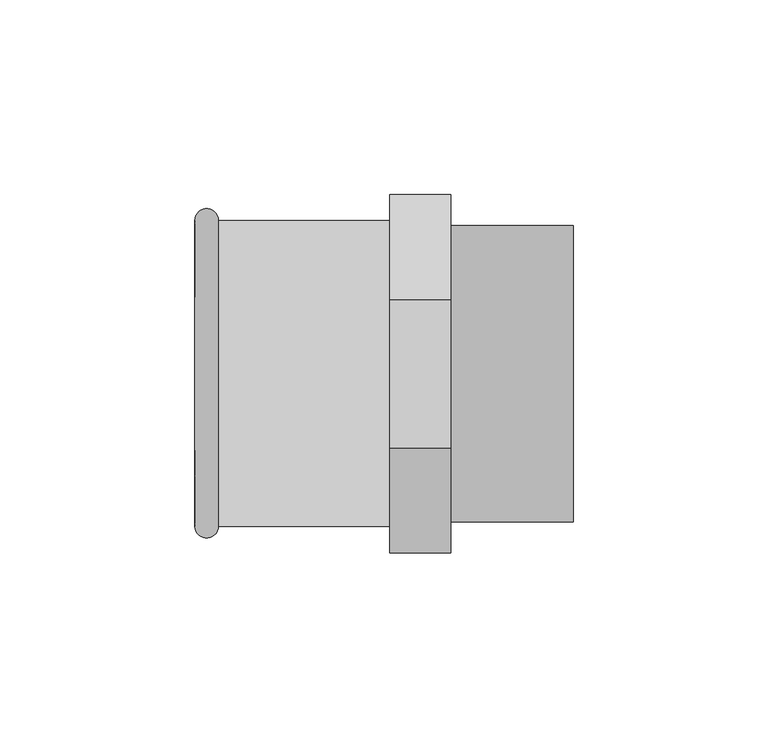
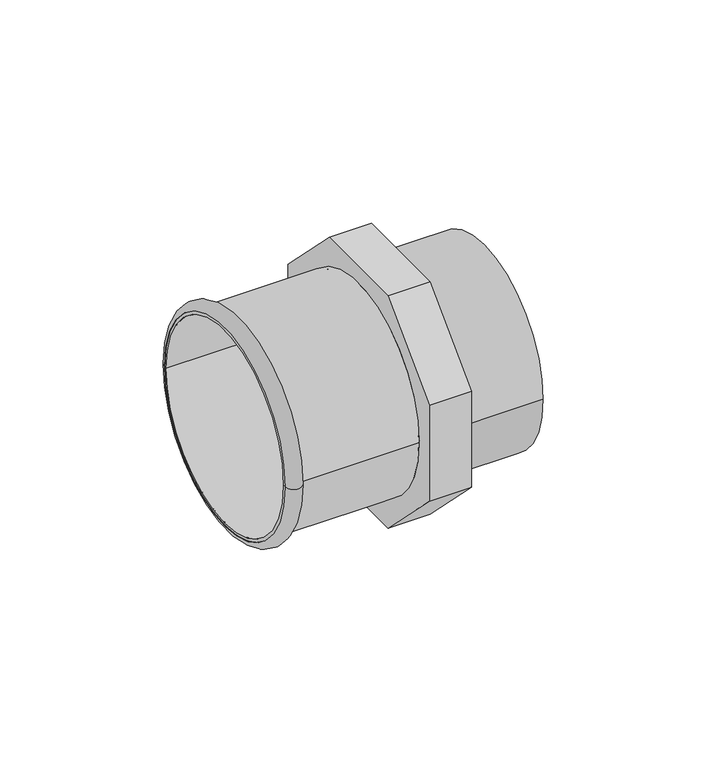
"""IFC4 building model written with IfcOpenShell, lengths in millimetres: pipe fitting geometry."""

import ifcopenshell
import ifcopenshell.guid

model = None  # the IFC model being written
_history = None  # IfcOwnerHistory: only IFC2X3 demands one
_inside = {}  # id of a spatial element -> (the spatial element, [elements in it])
_under = {}  # id of a project, library or spatial element -> (it, [spatial elements below it])
_declared = {}  # id of a project -> (the project, [libraries it declares])
_typed = {}  # id of a type object -> (the type object, [elements of that type])
_made_of = {}  # id of a material, layer set ... -> (it, [elements and type objects made of it])


def new_model(schema):
    """Start an empty IFC model of exactly this schema.

    Asked for "IFC4X3", IfcOpenShell would pick the latest addendum, in which some entities
    have other attributes; the version numbers below select the first issue.
    IFC2X3 requires an IfcOwnerHistory on every rooted entity: one is made here for all.
    """
    global model, _history
    if schema == "IFC4X3":
        model = ifcopenshell.file(schema_version=(4, 3, 0, 0))
    else:
        model = ifcopenshell.file(schema=schema)
    _inside.clear()
    _under.clear()
    _declared.clear()
    _typed.clear()
    _made_of.clear()
    _history = None
    if model.schema == "IFC2X3":
        org = make("IfcOrganization", Name="unknown")
        user = make(
            "IfcPersonAndOrganization",
            ThePerson=make("IfcPerson", FamilyName="unknown"),
            TheOrganization=org,
        )
        app = make(
            "IfcApplication",
            ApplicationDeveloper=org,
            Version="unknown",
            ApplicationFullName="unknown",
            ApplicationIdentifier="unknown",
        )
        _history = make(
            "IfcOwnerHistory",
            OwningUser=user,
            OwningApplication=app,
            ChangeAction="ADDED",
            CreationDate=0,
        )
    return model


def make(cls, **values):
    """One entity of the class cls with the attributes given. An attribute that is None is left unset."""
    return model.create_entity(
        cls, **{name: value for name, value in values.items() if value is not None}
    )


def rooted(cls, **values):
    """An entity with a GlobalId (a new one), such as an element, a storey or a relation."""
    return make(cls, GlobalId=ifcopenshell.guid.new(), OwnerHistory=_history, **values)


def si_unit(unit_type, name, prefix=None):
    """IfcSIUnit, for example si_unit("LENGTHUNIT", "METRE", prefix="MILLI")."""
    return make("IfcSIUnit", UnitType=unit_type, Prefix=prefix, Name=name)


def assignment(units):
    """IfcUnitAssignment: the units of a project."""
    return None if units is None else make("IfcUnitAssignment", Units=units)


def point(xyz):
    """IfcCartesianPoint."""
    return None if xyz is None else make("IfcCartesianPoint", Coordinates=xyz)


def direction(xyz):
    """IfcDirection."""
    return None if xyz is None else make("IfcDirection", DirectionRatios=xyz)


def frame(location, z_axis=None, x_axis=None):
    """IfcAxis2Placement3D, a coordinate frame: its origin and axes. An axis left out is left unset."""
    return make(
        "IfcAxis2Placement3D",
        Location=point(location),
        Axis=direction(z_axis),
        RefDirection=direction(x_axis),
    )


def frame_2d(location, x_axis=None):
    """IfcAxis2Placement2D, a coordinate frame in the plane: its origin and x axis."""
    return make(
        "IfcAxis2Placement2D", Location=point(location), RefDirection=direction(x_axis)
    )


def origin():
    """The frame at (0, 0, 0) with its axes left unset."""
    return frame((0.0, 0.0, 0.0))


def origin_2d():
    """The frame at (0, 0) in the plane with its x axis left unset."""
    return frame_2d((0.0, 0.0))


def place(relative_to, where):
    """IfcLocalPlacement: puts the frame where relative to a parent placement (None: the world)."""
    return make(
        "IfcLocalPlacement", PlacementRelTo=relative_to, RelativePlacement=where
    )


def context(
    kind, dimensions, precision=None, world=None, true_north=None, identifier=None
):
    """IfcGeometricRepresentationContext, for example the 3D "Model" context."""
    return make(
        "IfcGeometricRepresentationContext",
        ContextIdentifier=identifier,
        ContextType=kind,
        CoordinateSpaceDimension=dimensions,
        Precision=precision,
        WorldCoordinateSystem=world,
        TrueNorth=true_north,
    )


def project(units=None, contexts=None):
    """IfcProject with its units and contexts."""
    return rooted(
        "IfcProject",
        Name="project",
        RepresentationContexts=contexts,
        UnitsInContext=assignment(units),
    )


def spatial(cls, under=None, at=None, **own):
    """A site, building, storey or space (cls), placed at a placement, below another one or the project."""
    s = rooted(cls, ObjectPlacement=at, **own)
    if under is not None:
        _under.setdefault(under.id(), (under, []))[1].append(s)
    return s


def polyline(points):
    """IfcPolyline through the points."""
    return make("IfcPolyline", Points=[point(p) for p in points])


def circle_curve(where, radius):
    """IfcCircle in the frame where."""
    return make("IfcCircle", Position=where, Radius=radius)


def ellipse_curve(where, semi_axis1, semi_axis2):
    """IfcEllipse in the frame where."""
    return make(
        "IfcEllipse", Position=where, SemiAxis1=semi_axis1, SemiAxis2=semi_axis2
    )


def trimmed(basis, trim1, trim2, sense, master):
    """IfcTrimmedCurve: the piece of a basis curve between two trims."""
    return make(
        "IfcTrimmedCurve",
        BasisCurve=basis,
        Trim1=trim1,
        Trim2=trim2,
        SenseAgreement=sense,
        MasterRepresentation=master,
    )


def segment(curve, same_sense, transition):
    """IfcCompositeCurveSegment."""
    return make(
        "IfcCompositeCurveSegment",
        Transition=transition,
        SameSense=same_sense,
        ParentCurve=curve,
    )


def composite_curve(segments, self_intersect=None):
    """IfcCompositeCurve: segments joined end to end."""
    return make("IfcCompositeCurve", Segments=segments, SelfIntersect=self_intersect)


def outline(outer, holes=None, kind="AREA"):
    """IfcArbitraryClosedProfileDef: a profile drawn as a closed curve; with holes, ...WithVoids."""
    if holes is None:
        return make("IfcArbitraryClosedProfileDef", ProfileType=kind, OuterCurve=outer)
    return make(
        "IfcArbitraryProfileDefWithVoids",
        ProfileType=kind,
        OuterCurve=outer,
        InnerCurves=holes,
    )


def extrude(swept, where, along, depth):
    """IfcExtrudedAreaSolid: the profile swept, set in the frame where, extruded along a direction by depth."""
    return make(
        "IfcExtrudedAreaSolid",
        SweptArea=swept,
        Position=where,
        ExtrudedDirection=direction(along),
        Depth=depth,
    )


def shape(context_of_items, identifier, shape_type, items):
    """IfcShapeRepresentation: the items that make up one representation, for example the "Body"."""
    return make(
        "IfcShapeRepresentation",
        ContextOfItems=context_of_items,
        RepresentationIdentifier=identifier,
        RepresentationType=shape_type,
        Items=items,
    )


def source(mapping_origin, context_of_items, identifier, shape_type, items):
    """IfcRepresentationMap: a shape defined once, which mapped items show again and again."""
    return make(
        "IfcRepresentationMap",
        MappingOrigin=mapping_origin,
        MappedRepresentation=shape(context_of_items, identifier, shape_type, items),
    )


def transform(
    local_origin,
    x_axis=None,
    y_axis=None,
    z_axis=None,
    scale=None,
    scale2=None,
    scale3=None,
    uniform=True,
):
    """IfcCartesianTransformationOperator3D, or its non-uniform kind. x_axis, y_axis, z_axis: its Axis1, 2, 3."""
    if uniform:
        return make(
            "IfcCartesianTransformationOperator3D",
            Axis1=direction(x_axis),
            Axis2=direction(y_axis),
            LocalOrigin=point(local_origin),
            Scale=scale,
            Axis3=direction(z_axis),
        )
    return make(
        "IfcCartesianTransformationOperator3DnonUniform",
        Axis1=direction(x_axis),
        Axis2=direction(y_axis),
        LocalOrigin=point(local_origin),
        Scale=scale,
        Axis3=direction(z_axis),
        Scale2=scale2,
        Scale3=scale3,
    )


def mapped(mapping_source, mapping_target):
    """IfcMappedItem: shows the shape of a source again, moved by a transform."""
    return make(
        "IfcMappedItem", MappingSource=mapping_source, MappingTarget=mapping_target
    )


def made_of(thing, what):
    """Note that an element or type object is made of a material, layer set ...; save() writes the relation."""
    if what is not None:
        _made_of.setdefault(what.id(), (what, []))[1].append(thing)
    return thing


def element(
    cls,
    number,
    at=None,
    inside=None,
    cuts=None,
    type_object=None,
    material=None,
    context=None,
    identifier="Body",
    shape_type=None,
    held_by="IfcProductDefinitionShape",
    body=None,
    shapes=None,
    **own,
):
    """One element of the class cls, such as IfcWall. Its Tag is "e" and its number.

    at: its placement. inside: the storey or other place that contains it. cuts: it is an
    opening in that element (IfcRelVoidsElement). A single representation is given by context,
    identifier, shape_type and body (its items); several are given by shapes. held_by: the class
    of the entity that holds the representations. save() writes the other relations.
    """
    e = rooted(cls, Tag="e%d" % number, ObjectPlacement=at, **own)
    if body is not None:
        shapes = [shape(context, identifier, shape_type, body)]
    if shapes is not None:
        e.Representation = make(held_by, Representations=shapes)
    if inside is not None:
        _inside.setdefault(inside.id(), (inside, []))[1].append(e)
    if cuts is not None:
        rooted(
            "IfcRelVoidsElement", RelatingBuildingElement=cuts, RelatedOpeningElement=e
        )
    if type_object is not None:
        _typed.setdefault(type_object.id(), (type_object, []))[1].append(e)
    return made_of(e, material)


def aggregate(whole, parts):
    """IfcRelAggregates: a whole, such as a stair, and the parts it consists of."""
    return rooted("IfcRelAggregates", RelatingObject=whole, RelatedObjects=parts)


def save(model, path):
    """Write the relations noted so far, then the file.

    IfcRelAggregates (storeys below a building ...), IfcRelContainedInSpatialStructure (elements
    in a storey), IfcRelDefinesByType, IfcRelAssociatesMaterial and IfcRelDeclares: one each for
    every whole, place, type object, material and project.
    """
    for whole, parts in _under.values():
        aggregate(whole, parts)
    for where, things in _inside.values():
        rooted(
            "IfcRelContainedInSpatialStructure",
            RelatedElements=things,
            RelatingStructure=where,
        )
    for kind, things in _typed.values():
        rooted("IfcRelDefinesByType", RelatedObjects=things, RelatingType=kind)
    for what, things in _made_of.values():
        rooted("IfcRelAssociatesMaterial", RelatedObjects=things, RelatingMaterial=what)
    for by, libraries in _declared.values():
        rooted("IfcRelDeclares", RelatingContext=by, RelatedDefinitions=libraries)
    model.write(path)


def plane_surface(at):
    """IfcPlane: the flat surface through the origin of the frame at, square to its z axis."""
    return make("IfcPlane", Position=at)


def cylinder_surface(at, radius):
    """IfcCylindricalSurface: all points at the distance radius from the z axis of the frame at."""
    return make("IfcCylindricalSurface", Position=at, Radius=radius)


def revolved_surface(curve, axis_point, axis_direction):
    """IfcSurfaceOfRevolution: the curve turned about the line through axis_point along axis_direction."""
    return make(
        "IfcSurfaceOfRevolution",
        SweptCurve=make("IfcArbitraryOpenProfileDef", ProfileType="CURVE", Curve=curve),
        AxisPosition=make("IfcAxis1Placement", Location=point(axis_point), Axis=direction(axis_direction)),
    )


def advanced_brep(points, edges, surfaces, faces):
    """IfcAdvancedBrep: a solid bounded by faces that lie on surfaces and meet in shared edges.

    An edge is (start, end): straight between two places in points (the first is 0);
    or (start, end, curve); or (start, end, curve, False) where it runs against its curve.
    A face is (place in surfaces, loops), or (place, loops, False) where it looks against
    its surface's normal. A loop lists edges by number (the first is 1), with a minus sign
    where the edge is run from its end to its start. The first loop is the outer one.
    """
    corners = [point(p) for p in points]
    vertices = [make("IfcVertexPoint", VertexGeometry=c) for c in corners]
    made = []
    for start, end, *more in edges:
        made.append(
            make(
                "IfcEdgeCurve",
                EdgeStart=vertices[start],
                EdgeEnd=vertices[end],
                EdgeGeometry=more[0] if more else make("IfcPolyline", Points=[corners[start], corners[end]]),
                SameSense=more[1] if len(more) > 1 else True,
            )
        )
    hull = []
    for where, loops, *sense in faces:
        bounds = []
        for j, loop in enumerate(loops):
            ring = [make("IfcOrientedEdge", EdgeElement=made[abs(k) - 1], Orientation=k > 0) for k in loop]
            bounds.append(
                make(
                    "IfcFaceOuterBound" if j == 0 else "IfcFaceBound",
                    Bound=make("IfcEdgeLoop", EdgeList=ring),
                    Orientation=True,
                )
            )
        hull.append(make("IfcAdvancedFace", Bounds=bounds, FaceSurface=surfaces[where], SameSense=sense[0] if sense else True))
    return make("IfcAdvancedBrep", Outer=make("IfcClosedShell", CfsFaces=hull))


def pipe_fitting_5af64ebc(model_context):
    return source(origin(), model_context, "Body", "SolidModel", [
        advanced_brep(
        [(-50.0, 39.3523199, 0.0), (-50.0, -39.1476801, 0.0), (-43.9987073, -39.1476801, 0.0), (-43.9987073, 39.3523199, 0.0)],
        [
            (0, 1, circle_curve(frame((-50.0, 0.1023199, 0.0), z_axis=(-1.0, 0.0, 0.0), x_axis=(0.0, -1.0000000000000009, 0.0)), 39.25)),
            (1, 2),
            (2, 3, circle_curve(frame((-43.9987073, 0.1023199, 0.0), z_axis=(1.0, 0.0, 0.0), x_axis=(0.0, -1.0000000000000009, 0.0)), 39.25)),
            (3, 0),
            (1, 0, circle_curve(frame((-50.0, 0.1023199, 0.0), z_axis=(-1.0, 0.0, 0.0), x_axis=(0.0, -1.0000000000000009, 0.0)), 39.25)),
            (3, 2, circle_curve(frame((-43.9987073, 0.1023199, 0.0), z_axis=(1.0, 0.0, 0.0), x_axis=(0.0, -1.0000000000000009, 0.0)), 39.25)),
            (2, 1, circle_curve(frame((-46.9993536, -39.1476801, 0.0), z_axis=(0.0, 0.0, -1.0000000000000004), x_axis=(-1.0000000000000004, 0.0, 0.0)), 3.0006464)),
            (0, 3, circle_curve(frame((-46.9993536, 39.3523199, 0.0), z_axis=(0.0, 0.0, -1.0000000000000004), x_axis=(-1.0000000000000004, 0.0, 0.0)), 3.0006464)),
        ],
        [
            revolved_surface(polyline([(-43.99870730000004, -39.14768010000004, 0.0), (-50.00000000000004, -39.14768010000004, 0.0)]), (0.0, 0.1023199, 0.0), (1.0000000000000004, 0.0, 0.0)),
            revolved_surface(trimmed(ellipse_curve(frame((-46.9993536, -39.1476801, 0.0), z_axis=(0.0, 0.0, 1.0000000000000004), x_axis=(-1.0000000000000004, 0.0, 0.0)), 3.0006464, 3.0006464), [point((-50.0, -39.1476801, 0.0))], [point((-43.9987073, -39.1476801, 0.0))], True, "CARTESIAN"), (0.0, 0.1023199, 0.0), (1.0000000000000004, 0.0, 0.0)),
        ],
        [
            (0, [[1, 2, 3, 4]]),
            (0, [[5, -4, 6, -2]]),
            (1, [[-3, 7, -1, 8]]),
            (1, [[-6, -8, -5, -7]]),
        ],
    ),
        advanced_brep(
        [(-50.0, 38.1523199, 0.0), (-50.0, -37.9476801, 0.0), (1.0, -37.9476801, 0.0), (1.0, 38.1523199, 0.0), (-50.0, 39.3523199, 0.0), (-50.0, -39.1476801, 0.0), (0.0, 39.3523199, 0.0), (0.0, -39.1476801, 0.0)],
        [
            (0, 1, circle_curve(frame((-50.0, 0.1023199, 0.0), z_axis=(-1.0, 0.0, 0.0), x_axis=(0.0, -1.0000000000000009, 0.0)), 38.05)),
            (1, 2),
            (2, 3, circle_curve(frame((1.0, 0.1023199, 0.0), z_axis=(1.0, 0.0, 0.0), x_axis=(0.0, -1.0000000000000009, 0.0)), 38.05)),
            (3, 0),
            (1, 0, circle_curve(frame((-50.0, 0.1023199, 0.0), z_axis=(-1.0, 0.0, 0.0), x_axis=(0.0, -1.0000000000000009, 0.0)), 38.05)),
            (3, 2, circle_curve(frame((1.0, 0.1023199, 0.0), z_axis=(1.0, 0.0, 0.0), x_axis=(0.0, -1.0000000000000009, 0.0)), 38.05)),
            (4, 5, circle_curve(frame((-50.0, 0.1023199, 0.0), z_axis=(-1.0, 0.0, 0.0), x_axis=(0.0, -1.0000000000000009, 0.0)), 39.25)),
            (5, 1),
            (0, 4),
            (5, 4, circle_curve(frame((-50.0, 0.1023199, 0.0), z_axis=(-1.0, 0.0, 0.0), x_axis=(0.0, -1.0000000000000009, 0.0)), 39.25)),
            (6, 7, circle_curve(frame((0.0, 0.1023199, 0.0), z_axis=(-1.0, 0.0, 0.0), x_axis=(0.0, -1.0000000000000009, 0.0)), 39.25)),
            (7, 5),
            (4, 6),
            (7, 6, circle_curve(frame((0.0, 0.1023199, 0.0), z_axis=(-1.0, 0.0, 0.0), x_axis=(0.0, -1.0000000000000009, 0.0)), 39.25)),
            (2, 7),
            (6, 3),
        ],
        [
            revolved_surface(polyline([(1.0000000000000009, -37.947680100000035, 0.0), (-50.00000000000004, -37.947680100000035, 0.0)]), (0.0, 0.1023199, 0.0), (1.0000000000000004, 0.0, 0.0)),
            plane_surface(frame((-50.0, 0.1023199, 0.0), z_axis=(-1.0, 0.0, 0.0), x_axis=(0.0, -1.0, 0.0))),
            cylinder_surface(frame((0.0, 0.1023199, 0.0), z_axis=(1.0000000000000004, 0.0, 0.0), x_axis=(0.0, -1.0000000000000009, 0.0)), 39.25),
            revolved_surface(polyline([(0.0, -39.1476801, 0.0), (1.0, -37.9476801, 0.0)]), (0.0, 0.1023199, 0.0), (1.0000000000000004, 0.0, 0.0)),
        ],
        [
            (0, [[1, 2, 3, 4]]),
            (0, [[5, -4, 6, -2]]),
            (1, [[7, 8, -1, 9]]),
            (1, [[10, -9, -5, -8]]),
            (2, [[11, 12, -7, 13]]),
            (2, [[14, -13, -10, -12]]),
            (3, [[-3, 15, -11, 16]]),
            (3, [[-6, -16, -14, -15]]),
        ],
    ),
        extrude(outline(composite_curve([segment(trimmed(circle_curve(origin_2d(), 38.05), [point((-38.05, 0.0))], [point((38.05, 0.0))], False, "CARTESIAN"), True, "CONTINUOUS"), segment(trimmed(circle_curve(origin_2d(), 38.05), [point((38.05, 0.0))], [point((-38.05, 0.0))], False, "CARTESIAN"), True, "CONTINUOUS")], self_intersect=False)), frame((0.0, 0.0, 0.0), z_axis=(1.0, 0.0, 0.0), x_axis=(0.0, 1.0, 0.0)), (0.0, 0.0, 1.0), 47.0),
        extrude(outline(polyline([(45.930413, 19.025), (45.930413, -19.025), (19.025, -45.930413), (-19.025, -45.930413), (-45.930413, -19.025), (-45.930413, 19.025), (-19.025, 45.930413), (19.025, 45.930413), (45.930413, 19.025)]), holes=[composite_curve([segment(trimmed(circle_curve(origin_2d(), 38.05), [point((-38.05, 0.0))], [point((38.05, 0.0))], True, "CARTESIAN"), True, "CONTINUOUS"), segment(trimmed(circle_curve(origin_2d(), 38.05), [point((38.05, 0.0))], [point((-38.05, 0.0))], True, "CARTESIAN"), True, "CONTINUOUS")], self_intersect=False)]), frame((0.0, 0.0, 0.0), z_axis=(1.0, 0.0, 0.0), x_axis=(0.0, 1.0, 0.0)), (0.0, 0.0, 1.0), 15.6666667),
    ])


if __name__ == "__main__":
    model = new_model("IFC4")
    model_context = context("Model", 3, world=origin())
    ifc_project = project(units=[si_unit("LENGTHUNIT", "METRE", prefix="MILLI")], contexts=[model_context])
    site = spatial("IfcSite", under=ifc_project)
    building = spatial("IfcBuilding", under=site)
    placement = place(None, origin())
    pipe_fitting_shape = pipe_fitting_5af64ebc(model_context)
    element("IfcPipeFitting", 1, ObjectType="NLRS_50_PIF_UN_Mapress koper overgang met buitendraad_geb : DN10-80-R3\" / d12-89-R3\"", at=placement, inside=building, context=model_context, shape_type="MappedRepresentation", body=[
        mapped(pipe_fitting_shape, transform((0.0, 0.0, 0.0), x_axis=(1.0, 0.0, 0.0), y_axis=(0.0, 1.0, 0.0), z_axis=(0.0, 0.0, 1.0))),
    ])
    save(model, "model.ifc")
